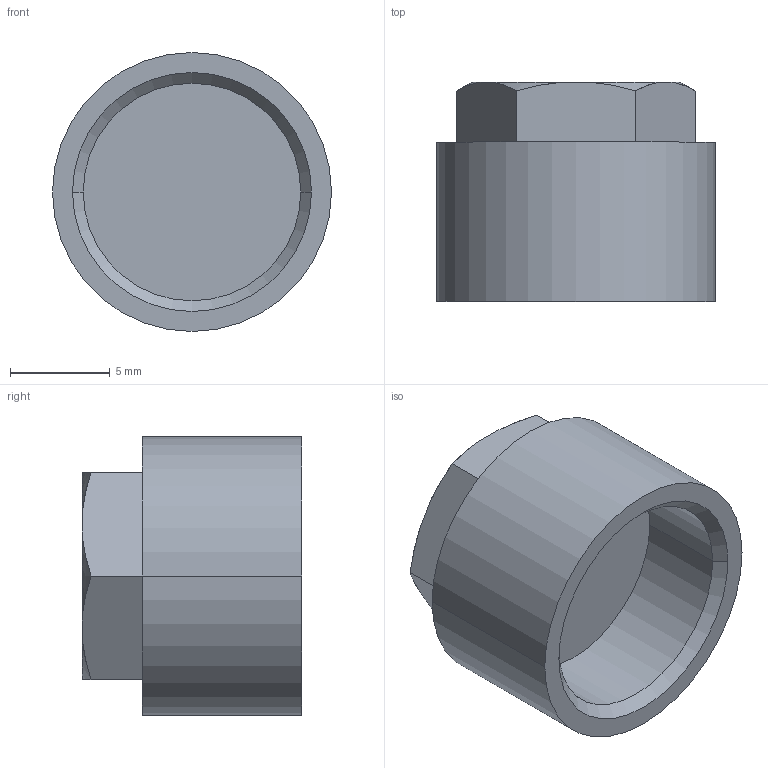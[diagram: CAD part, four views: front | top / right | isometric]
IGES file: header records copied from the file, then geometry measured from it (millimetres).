
Start section:  PTC IGES file: 1823340000.igs
Global section: file name: 1823340000.igs; native system: Pro/ENGINEER by Parametric Technology Corporation; preprocessor: 2009380; author: vol1hc; organization: Unknown; date: 20150408.181856; units: millimetre
Bounding box: 14 x 11 x 14 mm (x, y, z)
Surface area: 1138 mm2 (no closed solid volume)
Topology: 0 solids, 0 shells, 31 faces, 140 edges, 140 vertices
Faces by surface type: revolution 18, bspline 13
